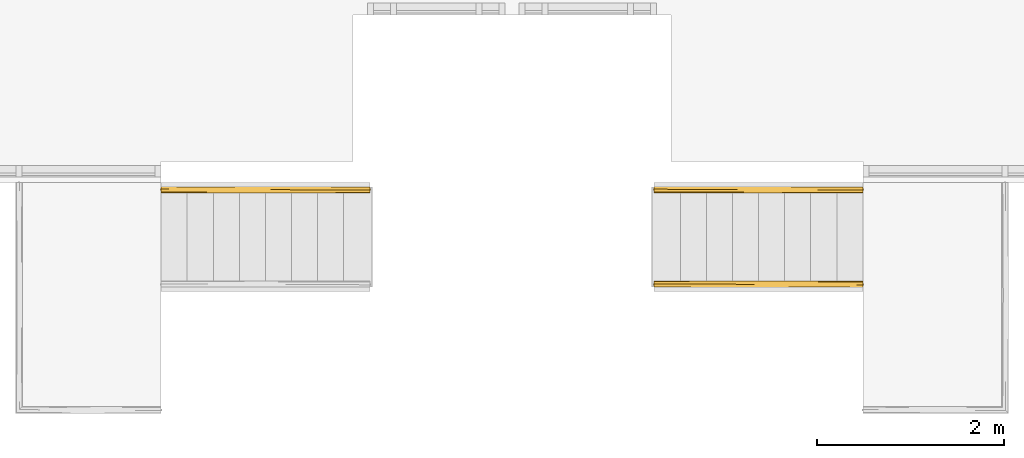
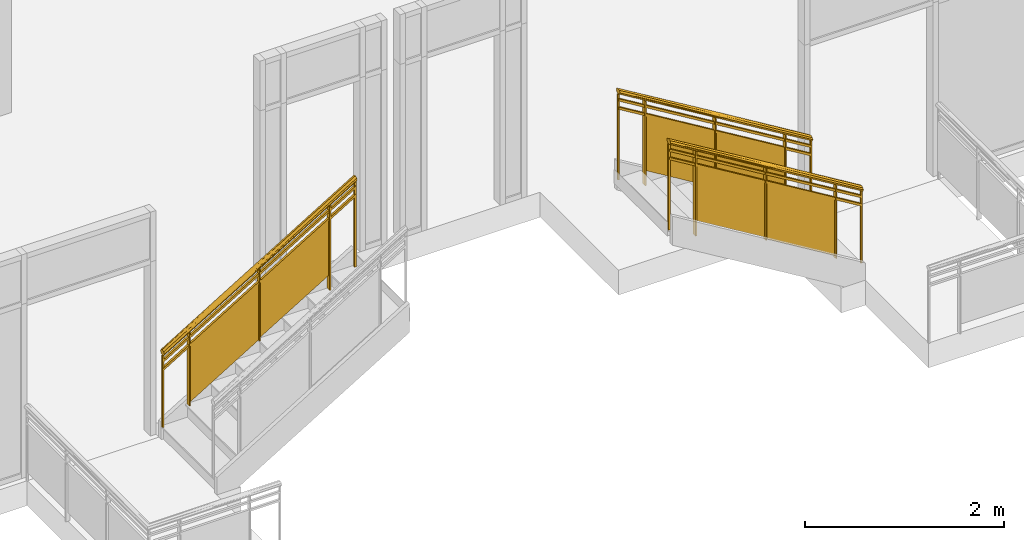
# One storey, part 9 of 11: 3 railings, 1 element without a shape of its own.
"""IFC2X3 building model written with IfcOpenShell, lengths in feet."""

import ifcopenshell
import ifcopenshell.guid

model = None  # the IFC model being written
_history = None  # IfcOwnerHistory: only IFC2X3 demands one
_inside = {}  # id of a spatial element -> (the spatial element, [elements in it])
_under = {}  # id of a project, library or spatial element -> (it, [spatial elements below it])
_declared = {}  # id of a project -> (the project, [libraries it declares])
_typed = {}  # id of a type object -> (the type object, [elements of that type])
_made_of = {}  # id of a material, layer set ... -> (it, [elements and type objects made of it])


def new_model(schema):
    """Start an empty IFC model of exactly this schema.

    Asked for "IFC4X3", IfcOpenShell would pick the latest addendum, in which some entities
    have other attributes; the version numbers below select the first issue.
    IFC2X3 requires an IfcOwnerHistory on every rooted entity: one is made here for all.
    """
    global model, _history
    if schema == "IFC4X3":
        model = ifcopenshell.file(schema_version=(4, 3, 0, 0))
    else:
        model = ifcopenshell.file(schema=schema)
    _inside.clear()
    _under.clear()
    _declared.clear()
    _typed.clear()
    _made_of.clear()
    _history = None
    if model.schema == "IFC2X3":
        org = make("IfcOrganization", Name="unknown")
        user = make(
            "IfcPersonAndOrganization",
            ThePerson=make("IfcPerson", FamilyName="unknown"),
            TheOrganization=org,
        )
        app = make(
            "IfcApplication",
            ApplicationDeveloper=org,
            Version="unknown",
            ApplicationFullName="unknown",
            ApplicationIdentifier="unknown",
        )
        _history = make(
            "IfcOwnerHistory",
            OwningUser=user,
            OwningApplication=app,
            ChangeAction="ADDED",
            CreationDate=0,
        )
    return model


def make(cls, **values):
    """One entity of the class cls with the attributes given. An attribute that is None is left unset."""
    return model.create_entity(
        cls, **{name: value for name, value in values.items() if value is not None}
    )


def entity(cls, *values):
    """Any entity or typed value of the class cls, its attributes in the order of the schema. None: left unset."""
    e = model.create_entity(cls)
    for i, value in enumerate(values):
        if value is not None:
            e[i] = value
    return e


def rooted(cls, **values):
    """An entity with a GlobalId (a new one), such as an element, a storey or a relation."""
    return make(cls, GlobalId=ifcopenshell.guid.new(), OwnerHistory=_history, **values)


def si_unit(unit_type, name, prefix=None):
    """IfcSIUnit, for example si_unit("LENGTHUNIT", "METRE", prefix="MILLI")."""
    return make("IfcSIUnit", UnitType=unit_type, Prefix=prefix, Name=name)


def converted_unit(unit_type, name, factor, base, dimensions=None, offset=None):
    """IfcConversionBasedUnit, such as the inch: factor (a typed value) times the base unit."""
    return make(
        "IfcConversionBasedUnit"
        if offset is None
        else "IfcConversionBasedUnitWithOffset",
        ConversionOffset=offset,
        Dimensions=None
        if dimensions is None
        else entity("IfcDimensionalExponents", *dimensions),
        UnitType=unit_type,
        Name=name,
        ConversionFactor=make(
            "IfcMeasureWithUnit", ValueComponent=factor, UnitComponent=base
        ),
    )


def derived_unit(unit_type, elements):
    """IfcDerivedUnit: a product of units, each with its exponent."""
    return make(
        "IfcDerivedUnit",
        Elements=[
            make("IfcDerivedUnitElement", Unit=unit, Exponent=power)
            for unit, power in elements
        ],
        UnitType=unit_type,
    )


def assignment(units):
    """IfcUnitAssignment: the units of a project."""
    return None if units is None else make("IfcUnitAssignment", Units=units)


def point(xyz):
    """IfcCartesianPoint."""
    return None if xyz is None else make("IfcCartesianPoint", Coordinates=xyz)


def direction(xyz):
    """IfcDirection."""
    return None if xyz is None else make("IfcDirection", DirectionRatios=xyz)


def frame(location, z_axis=None, x_axis=None):
    """IfcAxis2Placement3D, a coordinate frame: its origin and axes. An axis left out is left unset."""
    return make(
        "IfcAxis2Placement3D",
        Location=point(location),
        Axis=direction(z_axis),
        RefDirection=direction(x_axis),
    )


def origin():
    """The frame at (0, 0, 0) with its axes left unset."""
    return frame((0.0, 0.0, 0.0))


def place(relative_to, where):
    """IfcLocalPlacement: puts the frame where relative to a parent placement (None: the world)."""
    return make(
        "IfcLocalPlacement", PlacementRelTo=relative_to, RelativePlacement=where
    )


def context(
    kind, dimensions, precision=None, world=None, true_north=None, identifier=None
):
    """IfcGeometricRepresentationContext, for example the 3D "Model" context."""
    return make(
        "IfcGeometricRepresentationContext",
        ContextIdentifier=identifier,
        ContextType=kind,
        CoordinateSpaceDimension=dimensions,
        Precision=precision,
        WorldCoordinateSystem=world,
        TrueNorth=true_north,
    )


def subcontext(parent, identifier, kind, view, scale=None):
    """IfcGeometricRepresentationSubContext, for example "Body" below "Model"."""
    return make(
        "IfcGeometricRepresentationSubContext",
        ContextIdentifier=identifier,
        ContextType=kind,
        ParentContext=parent,
        TargetScale=scale,
        TargetView=view,
    )


def project(units=None, contexts=None):
    """IfcProject with its units and contexts."""
    return rooted(
        "IfcProject",
        Name="project",
        RepresentationContexts=contexts,
        UnitsInContext=assignment(units),
    )


def spatial(cls, under=None, at=None, **own):
    """A site, building, storey or space (cls), placed at a placement, below another one or the project."""
    s = rooted(cls, ObjectPlacement=at, **own)
    if under is not None:
        _under.setdefault(under.id(), (under, []))[1].append(s)
    return s


def faces_of(points, faces, orient=None, outer=None):
    """IfcFace entities. A face is a list of loops; a loop is a list of indices into points, from 0.

    orient and outer hold one flag for each loop. By default every Orientation is true, the
    first loop of a face is its IfcFaceOuterBound and the others are IfcFaceBound.
    """
    made = []
    for i, loops in enumerate(faces):
        bounds = []
        for j, loop in enumerate(loops):
            is_outer = j == 0 if outer is None else outer[i][j]
            bounds.append(
                make(
                    "IfcFaceOuterBound" if is_outer else "IfcFaceBound",
                    Bound=make("IfcPolyLoop", Polygon=[points[k] for k in loop]),
                    Orientation=True if orient is None else orient[i][j],
                )
            )
        made.append(make("IfcFace", Bounds=bounds))
    return made


def faceted_brep(points, faces, orient=None, outer=None, voids=None):
    """IfcFacetedBrep: a solid bounded by flat faces; with voids (closed shells), ...WithVoids."""
    shared = [point(p) for p in points]
    hull = make("IfcClosedShell", CfsFaces=faces_of(shared, faces, orient, outer))
    if voids is None:
        return make("IfcFacetedBrep", Outer=hull)
    return make(
        "IfcFacetedBrepWithVoids",
        Outer=hull,
        Voids=[
            make(cls, CfsFaces=faces_of(shared, fs, o, b)) for cls, fs, o, b in voids
        ],
    )


def shape(context_of_items, identifier, shape_type, items):
    """IfcShapeRepresentation: the items that make up one representation, for example the "Body"."""
    return make(
        "IfcShapeRepresentation",
        ContextOfItems=context_of_items,
        RepresentationIdentifier=identifier,
        RepresentationType=shape_type,
        Items=items,
    )


def material(Name=None, Category=None):
    """IfcMaterial."""
    return make("IfcMaterial", Name=Name, Category=Category)


def material_list(materials):
    """IfcMaterialList."""
    return make("IfcMaterialList", Materials=materials)


def made_of(thing, what):
    """Note that an element or type object is made of a material, layer set ...; save() writes the relation."""
    if what is not None:
        _made_of.setdefault(what.id(), (what, []))[1].append(thing)
    return thing


def element(
    cls,
    number,
    at=None,
    inside=None,
    cuts=None,
    type_object=None,
    material=None,
    context=None,
    identifier="Body",
    shape_type=None,
    held_by="IfcProductDefinitionShape",
    body=None,
    shapes=None,
    **own,
):
    """One element of the class cls, such as IfcWall. Its Tag is "e" and its number.

    at: its placement. inside: the storey or other place that contains it. cuts: it is an
    opening in that element (IfcRelVoidsElement). A single representation is given by context,
    identifier, shape_type and body (its items); several are given by shapes. held_by: the class
    of the entity that holds the representations. save() writes the other relations.
    """
    e = rooted(cls, Tag="e%d" % number, ObjectPlacement=at, **own)
    if body is not None:
        shapes = [shape(context, identifier, shape_type, body)]
    if shapes is not None:
        e.Representation = make(held_by, Representations=shapes)
    if inside is not None:
        _inside.setdefault(inside.id(), (inside, []))[1].append(e)
    if cuts is not None:
        rooted(
            "IfcRelVoidsElement", RelatingBuildingElement=cuts, RelatedOpeningElement=e
        )
    if type_object is not None:
        _typed.setdefault(type_object.id(), (type_object, []))[1].append(e)
    return made_of(e, material)


def aggregate(whole, parts):
    """IfcRelAggregates: a whole, such as a stair, and the parts it consists of."""
    return rooted("IfcRelAggregates", RelatingObject=whole, RelatedObjects=parts)


def save(model, path):
    """Write the relations noted so far, then the file.

    IfcRelAggregates (storeys below a building ...), IfcRelContainedInSpatialStructure (elements
    in a storey), IfcRelDefinesByType, IfcRelAssociatesMaterial and IfcRelDeclares: one each for
    every whole, place, type object, material and project.
    """
    for whole, parts in _under.values():
        aggregate(whole, parts)
    for where, things in _inside.values():
        rooted(
            "IfcRelContainedInSpatialStructure",
            RelatedElements=things,
            RelatingStructure=where,
        )
    for kind, things in _typed.values():
        rooted("IfcRelDefinesByType", RelatedObjects=things, RelatingType=kind)
    for what, things in _made_of.values():
        rooted("IfcRelAssociatesMaterial", RelatedObjects=things, RelatingMaterial=what)
    for by, libraries in _declared.values():
        rooted("IfcRelDeclares", RelatingContext=by, RelatedDefinitions=libraries)
    model.write(path)


model = new_model("IFC2X3")

# Units and contexts
model_context = context("Model", 3, precision=0.0001, world=origin(), true_north=direction((6.12303176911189e-17, 1.0)))
body_context = subcontext(model_context, "Body", "Model", "MODEL_VIEW")
ifc_project = project(units=[converted_unit("LENGTHUNIT", "FOOT", entity("IfcRatioMeasure", 0.3048), si_unit("LENGTHUNIT", "METRE"), dimensions=[1, 0, 0, 0, 0, 0, 0]), converted_unit("AREAUNIT", "SQUARE FOOT", entity("IfcRatioMeasure", 0.09290304), si_unit("AREAUNIT", "SQUARE_METRE"), dimensions=[2, 0, 0, 0, 0, 0, 0]), converted_unit("VOLUMEUNIT", "CUBIC FOOT", entity("IfcRatioMeasure", 0.028316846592), si_unit("VOLUMEUNIT", "CUBIC_METRE"), dimensions=[3, 0, 0, 0, 0, 0, 0]), converted_unit("PLANEANGLEUNIT", "DEGREE", entity("IfcRatioMeasure", 0.0174532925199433), si_unit("PLANEANGLEUNIT", "RADIAN"), dimensions=[0, 0, 0, 0, 0, 0, 0]), si_unit("MASSUNIT", "GRAM", prefix="KILO"), derived_unit("MASSDENSITYUNIT", [(si_unit("MASSUNIT", "GRAM", prefix="KILO"), 1), (si_unit("LENGTHUNIT", "METRE"), -3)]), si_unit("TIMEUNIT", "SECOND"), si_unit("FREQUENCYUNIT", "HERTZ"), si_unit("THERMODYNAMICTEMPERATUREUNIT", "DEGREE_CELSIUS"), derived_unit("THERMALTRANSMITTANCEUNIT", [(si_unit("MASSUNIT", "GRAM", prefix="KILO"), 1), (si_unit("THERMODYNAMICTEMPERATUREUNIT", "KELVIN"), -1), (si_unit("TIMEUNIT", "SECOND"), -3)]), derived_unit("VOLUMETRICFLOWRATEUNIT", [(si_unit("LENGTHUNIT", "METRE"), 3), (si_unit("TIMEUNIT", "SECOND"), -1)]), si_unit("ELECTRICCURRENTUNIT", "AMPERE"), si_unit("ELECTRICVOLTAGEUNIT", "VOLT"), si_unit("POWERUNIT", "WATT"), si_unit("FORCEUNIT", "NEWTON"), si_unit("ILLUMINANCEUNIT", "LUX"), si_unit("LUMINOUSFLUXUNIT", "LUMEN"), si_unit("LUMINOUSINTENSITYUNIT", "CANDELA"), derived_unit("USERDEFINED", [(si_unit("MASSUNIT", "GRAM", prefix="KILO"), -1), (si_unit("LENGTHUNIT", "METRE"), -2), (si_unit("TIMEUNIT", "SECOND"), 3), (si_unit("LUMINOUSFLUXUNIT", "LUMEN"), 1)]), derived_unit("LINEARVELOCITYUNIT", [(si_unit("LENGTHUNIT", "METRE"), 1), (si_unit("TIMEUNIT", "SECOND"), -1)]), si_unit("PRESSUREUNIT", "PASCAL"), derived_unit("USERDEFINED", [(si_unit("LENGTHUNIT", "METRE"), -2), (si_unit("MASSUNIT", "GRAM", prefix="KILO"), 1), (si_unit("TIMEUNIT", "SECOND"), -2)])], contexts=[model_context])

# Site, building, storey
site_placement = place(None, origin())
site = spatial("IfcSite", under=ifc_project, at=site_placement, Name="Default", CompositionType="ELEMENT")
building_placement = place(site_placement, origin())
building = spatial("IfcBuilding", under=site, at=building_placement, CompositionType="ELEMENT")
storey_placement = place(building_placement, frame((0.0, 0.0, 10.0)))
storey = spatial("IfcBuildingStorey", under=building, at=storey_placement, Name="Level 2", CompositionType="ELEMENT", Elevation=9.99999999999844)

# Stair, railings
stair_placement = place(storey_placement, origin())
stair = element("IfcStair", 1, at=stair_placement, inside=storey, Name="Assembled Stair:Stair", ObjectType="Assembled Stair:7\" max riser 11\" tread", ShapeType="NOTDEFINED")
ifc_material_1 = material(Name="Glass")
ifc_material_2 = material(Name="alum - color")
ifc_material_list_1 = material_list([ifc_material_1, ifc_material_2])
railing_1_placement = place(stair_placement, frame((-46.3459961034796, -7.71720842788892, 0.555555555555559)))
railing_1 = element("IfcRailing", 2, at=railing_1_placement, material=ifc_material_list_1, Name="Railing:Glass Panel - Bottom Fill", ObjectType="Railing:Glass Panel - Bottom Fill", PredefinedType="NOTDEFINED", context=body_context, shape_type="Brep", body=[
    faceted_brep([(6.33333333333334, 0.213567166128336, 6.71557302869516), (6.33333333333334, 0.213567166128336, 3.33333333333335), (6.33333333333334, 0.0469004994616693, 3.33333333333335), (6.33333333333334, 0.0469004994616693, 6.71557302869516), (6.37500000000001, 0.213567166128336, 6.74082555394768), (6.37500000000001, 0.213567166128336, 3.33333333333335), (6.37500000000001, 0.0469004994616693, 6.74082555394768), (6.37500000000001, 0.0469004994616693, 3.33333333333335)], [[[0, 1, 2, 3]], [[4, 5, 1, 0]], [[6, 7, 5, 4]], [[3, 2, 7, 6]], [[3, 6, 4, 0]], [[1, 5, 7, 2]]]),
    faceted_brep([(3.6875, 0.108793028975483, 2.30303030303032), (6.35416666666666, 0.108793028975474, 3.91919191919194), (6.35416666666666, 0.108793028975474, 6.12299550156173), (3.6875, 0.108793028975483, 4.50683388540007), (3.6875, 0.129626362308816, 2.30303030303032), (3.6875, 0.129626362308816, 4.50683388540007), (6.35416666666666, 0.129626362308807, 6.12299550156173), (6.35416666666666, 0.129626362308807, 3.91919191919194)], [[[0, 1, 2, 3]], [[4, 5, 6, 7]], [[3, 5, 4, 0]], [[2, 6, 5, 3]], [[1, 7, 6, 2]], [[0, 4, 7, 1]]]),
    faceted_brep([(3.66666666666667, 0.213567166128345, 5.09941141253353), (3.66666666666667, 0.213567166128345, 2.22222222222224), (3.66666666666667, 0.0469004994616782, 2.22222222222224), (3.66666666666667, 0.0469004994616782, 5.09941141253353), (3.70833333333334, 0.213567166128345, 5.12466393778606), (3.70833333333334, 0.213567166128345, 2.22222222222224), (3.70833333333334, 0.0469004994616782, 5.12466393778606), (3.70833333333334, 0.0469004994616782, 2.22222222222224)], [[[0, 1, 2, 3]], [[4, 5, 1, 0]], [[6, 7, 5, 4]], [[3, 2, 7, 6]], [[3, 6, 4, 0]], [[1, 5, 7, 2]]]),
    faceted_brep([(1.02083333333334, 0.108793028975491, 0.636363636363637), (3.6875, 0.108793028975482, 2.25252525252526), (3.6875, 0.108793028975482, 4.50683388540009), (1.02083333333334, 0.108793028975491, 2.89067226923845), (1.02083333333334, 0.129626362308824, 0.636363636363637), (1.02083333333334, 0.129626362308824, 2.89067226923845), (3.6875, 0.129626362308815, 4.50683388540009), (3.6875, 0.129626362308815, 2.25252525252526)], [[[0, 1, 2, 3]], [[4, 5, 6, 7]], [[3, 5, 4, 0]], [[2, 6, 5, 3]], [[1, 7, 6, 2]], [[0, 4, 7, 1]]]),
    faceted_brep([(1.0, 0.213567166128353, 3.48324979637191), (1.0, 0.213567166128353, 0.555555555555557), (1.0, 0.0469004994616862, 0.555555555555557), (1.0, 0.0469004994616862, 3.48324979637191), (1.04166666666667, 0.213567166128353, 3.50850232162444), (1.04166666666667, 0.213567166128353, 0.555555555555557), (1.04166666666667, 0.0469004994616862, 3.50850232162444), (1.04166666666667, 0.0469004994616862, 0.555555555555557)], [[[0, 1, 2, 3]], [[4, 5, 1, 0]], [[6, 7, 5, 4]], [[3, 2, 7, 6]], [[3, 6, 4, 0]], [[1, 5, 7, 2]]]),
    faceted_brep([(7.31250000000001, 0.161483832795, 7.3090073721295), (7.31250000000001, 0.161483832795, 3.88888888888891), (7.31250000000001, 0.0989838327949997, 3.88888888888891), (7.31250000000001, 0.0989838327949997, 7.3090073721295), (7.37500000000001, 0.161483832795, 7.34688616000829), (7.37500000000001, 0.161483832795, 3.88888888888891), (7.37500000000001, 0.0989838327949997, 7.34688616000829), (7.37500000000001, 0.0989838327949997, 3.88888888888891)], [[[0, 1, 2, 3]], [[4, 5, 1, 0]], [[6, 7, 5, 4]], [[3, 2, 7, 6]], [[3, 6, 4, 0]], [[1, 5, 7, 2]]]),
    faceted_brep([(0.0, 0.161483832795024, 2.8771891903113), (0.0, 0.161483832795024, 0.0), (0.0, 0.0989838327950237, 0.0), (0.0, 0.0989838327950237, 2.8771891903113), (0.0625, 0.161483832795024, 2.91506797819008), (0.0625, 0.161483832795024, 0.0), (0.0625, 0.0989838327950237, 2.91506797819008), (0.0625, 0.0989838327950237, 0.0)], [[[0, 1, 2, 3]], [[4, 5, 1, 0]], [[6, 7, 5, 4]], [[3, 2, 7, 6]], [[3, 6, 4, 0]], [[1, 5, 7, 2]]]),
    faceted_brep([(0.0208333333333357, 0.171900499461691, 2.71538833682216), (0.0208333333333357, 0.171900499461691, 2.61794499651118), (0.0208333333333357, 0.0885671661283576, 2.61794499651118), (0.0208333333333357, 0.0885671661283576, 2.71538833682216), (7.35416666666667, 0.171900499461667, 7.15983278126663), (7.35416666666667, 0.0885671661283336, 7.15983278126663), (7.35416666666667, 0.0885671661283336, 7.06238944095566), (7.35416666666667, 0.171900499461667, 7.06238944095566)], [[[0, 1, 2, 3]], [[4, 5, 6, 7]], [[1, 0, 4, 7]], [[2, 1, 7, 6]], [[3, 2, 6, 5]], [[0, 3, 5, 4]]]),
    faceted_brep([(0.0208333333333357, 0.171900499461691, 2.38205500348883), (0.0208333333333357, 0.171900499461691, 2.28461166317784), (0.0208333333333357, 0.0885671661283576, 2.28461166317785), (0.0208333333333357, 0.0885671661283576, 2.38205500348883), (7.35416666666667, 0.171900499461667, 6.8264994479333), (7.35416666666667, 0.0885671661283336, 6.8264994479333), (7.35416666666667, 0.0885671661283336, 6.72905610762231), (7.35416666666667, 0.171900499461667, 6.72905610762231)], [[[0, 1, 2, 3]], [[4, 5, 6, 7]], [[1, 0, 4, 7]], [[2, 1, 7, 6]], [[3, 2, 6, 5]], [[0, 3, 5, 4]]]),
    faceted_brep([(0.0208333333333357, 0.0465925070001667, 3.08146632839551), (0.0208333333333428, 0.0949461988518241, 3.09524477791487), (0.0208333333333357, 0.143299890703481, 3.10902322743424), (0.0208333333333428, 0.187330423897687, 3.08672922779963), (0.0208333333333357, 0.231360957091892, 3.06443522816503), (0.0208333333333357, 0.243297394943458, 3.03221761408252), (0.0208333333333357, 0.255233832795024, 3.0), (0.0208333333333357, 0.234554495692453, 2.95926683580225), (0.0208333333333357, 0.213875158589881, 2.9185336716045), (0.0208333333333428, 0.165521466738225, 2.90475522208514), (0.0208333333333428, 0.141344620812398, 2.89786599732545), (0.0208333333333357, 0.117167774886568, 2.89097677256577), (0.0208333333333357, 0.0731372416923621, 2.91327077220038), (0.0208333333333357, 0.0291067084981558, 2.93556477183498), (0.0208333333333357, 0.0171702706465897, 2.96778238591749), (0.0208333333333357, 0.00523383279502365, 3.0), (0.0208333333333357, 0.0259131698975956, 3.04073316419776), (7.35416666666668, 0.0259131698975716, 7.40371128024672), (7.35416666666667, 0.0465925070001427, 7.36297811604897), (7.35416666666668, 0.0949461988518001, 7.34919966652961), (7.35416666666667, 0.143299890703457, 7.33542121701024), (7.35416666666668, 0.187330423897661, 7.35771521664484), (7.35416666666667, 0.231360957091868, 7.38000921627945), (7.35416666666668, 0.243297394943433, 7.41222683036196), (7.35416666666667, 0.255233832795, 7.44444444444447), (7.35416666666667, 0.244378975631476, 7.46582582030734), (7.35416666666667, 0.234554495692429, 7.48517760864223), (7.35416666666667, 0.213875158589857, 7.52591077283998), (7.35416666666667, 0.1655214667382, 7.53968922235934), (7.35416666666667, 0.117167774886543, 7.55346767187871), (7.35416666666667, 0.0951525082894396, 7.54232067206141), (7.35416666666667, 0.0731372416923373, 7.53117367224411), (7.35416666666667, 0.0291067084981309, 7.5088796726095), (7.35416666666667, 0.0171702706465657, 7.47666205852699), (7.35416666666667, 0.00523383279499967, 7.44444444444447), (3.7002905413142, 0.24675539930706, 5.19028869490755), (3.87247818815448, 0.177511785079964, 5.23284993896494), (3.91578387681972, 0.2076001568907, 5.27447257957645), (3.0787150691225, 0.231313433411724, 4.78876910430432), (3.15949122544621, 0.255233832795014, 4.90221690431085), (4.21550890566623, 0.25523383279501, 5.54222761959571), (4.04114830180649, 0.0629732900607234, 5.34415364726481), (3.2258587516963, 0.0946029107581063, 4.8373638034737), (3.68929300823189, 0.130201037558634, 5.11368513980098), (3.72718018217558, 0.0367721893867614, 5.17347577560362), (3.44651497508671, 0.0177333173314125, 5.02838773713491), (3.15948484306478, 0.00523383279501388, 4.90221303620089), (3.54783177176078, 0.0115093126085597, 5.17187272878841), (3.33044597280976, 0.0259810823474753, 5.06630868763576), (4.14481111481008, 0.0490518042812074, 5.58273826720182), (3.68590222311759, 0.0794402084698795, 5.32141906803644), (3.19149194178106, 0.251785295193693, 4.94718335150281), (3.54340951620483, 0.127144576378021, 5.24448493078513), (3.42716626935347, 0.161623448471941, 5.17055526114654), (3.59902271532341, 0.221853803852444, 5.24317359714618), (3.37926588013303, 0.241652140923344, 5.0851086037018), (4.26044448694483, 0.193327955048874, 5.66409552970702)], [[[0, 1, 2, 3, 4, 5, 6, 7, 8, 9, 10, 11, 12, 13, 14, 15, 16]], [[17, 18, 19, 20, 21, 22, 23, 24, 25, 26, 27, 28, 29, 30, 31, 32, 33, 34]], [[35, 7, 6]], [[9, 8, 36, 10]], [[22, 37, 38]], [[37, 36, 8]], [[21, 36, 37]], [[35, 6, 39, 40]], [[41, 42, 19]], [[38, 7, 35]], [[19, 42, 43]], [[44, 41, 18]], [[13, 45, 14]], [[8, 38, 37]], [[44, 12, 41]], [[38, 8, 7]], [[11, 43, 42]], [[17, 34, 46]], [[35, 23, 22]], [[11, 10, 43]], [[40, 24, 23]], [[21, 37, 22]], [[36, 21, 20]], [[36, 20, 43]], [[36, 43, 10]], [[43, 20, 19]], [[42, 12, 11]], [[12, 42, 41]], [[13, 12, 44]], [[18, 41, 19]], [[46, 15, 14]], [[44, 18, 17]], [[17, 45, 44]], [[38, 35, 22]], [[45, 17, 46]], [[23, 35, 40]], [[44, 45, 13]], [[14, 45, 46]], [[16, 47, 48]], [[0, 48, 49]], [[49, 31, 50]], [[31, 30, 50]], [[51, 26, 25]], [[2, 52, 53]], [[54, 27, 26]], [[54, 55, 4]], [[26, 51, 55]], [[47, 16, 15]], [[54, 26, 55]], [[5, 4, 55]], [[25, 24, 40, 39]], [[56, 54, 3]], [[56, 3, 53]], [[50, 0, 49]], [[27, 54, 56]], [[51, 39, 6]], [[53, 52, 28]], [[54, 4, 3]], [[56, 28, 27]], [[28, 56, 53]], [[5, 55, 51]], [[29, 28, 52]], [[2, 53, 3]], [[30, 29, 52]], [[52, 2, 1]], [[1, 0, 50]], [[52, 50, 30]], [[1, 50, 52]], [[49, 32, 31]], [[32, 49, 48]], [[33, 48, 47]], [[16, 48, 0]], [[46, 34, 47, 15]], [[33, 32, 48]], [[33, 47, 34]], [[5, 51, 6]], [[39, 51, 25]]]),
])
ifc_material_list_2 = material_list([ifc_material_1, ifc_material_2])
railing_2_placement = place(stair_placement, frame((-29.0126627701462, -11.0505417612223, 0.555555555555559)))
railing_2 = element("IfcRailing", 3, at=railing_2_placement, material=ifc_material_list_2, Name="Railing:Glass Panel - Bottom Fill", ObjectType="Railing:Glass Panel - Bottom Fill", PredefinedType="NOTDEFINED", context=body_context, shape_type="Brep", body=[
    faceted_brep([(6.33333333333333, 0.0469004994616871, 3.50850232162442), (6.33333333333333, 0.213567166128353, 3.50850232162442), (6.33333333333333, 0.213567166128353, 0.555555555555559), (6.33333333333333, 0.0469004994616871, 0.555555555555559), (6.375, 0.0469004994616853, 3.4832497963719), (6.375, 0.0469004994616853, 0.555555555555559), (6.375, 0.213567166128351, 3.4832497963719), (6.375, 0.213567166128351, 0.555555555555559)], [[[0, 1, 2, 3]], [[4, 0, 3, 5]], [[6, 4, 5, 7]], [[1, 6, 7, 2]], [[1, 0, 4, 6]], [[3, 2, 7, 5]]]),
    faceted_brep([(3.6875, 0.151674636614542, 2.25252525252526), (3.6875, 0.151674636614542, 4.50683388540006), (6.35416666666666, 0.151674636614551, 2.89067226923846), (6.35416666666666, 0.151674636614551, 0.63636363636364), (3.6875, 0.130841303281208, 2.25252525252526), (6.35416666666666, 0.130841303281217, 0.63636363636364), (6.35416666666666, 0.130841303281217, 2.89067226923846), (3.6875, 0.130841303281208, 4.50683388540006)], [[[0, 1, 2, 3]], [[4, 5, 6, 7]], [[1, 0, 4, 7]], [[2, 1, 7, 6]], [[3, 2, 6, 5]], [[0, 3, 5, 4]]]),
    faceted_brep([(3.66666666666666, 0.0469004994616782, 5.12466393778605), (3.66666666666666, 0.213567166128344, 5.12466393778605), (3.66666666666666, 0.213567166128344, 2.22222222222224), (3.66666666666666, 0.0469004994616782, 2.22222222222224), (3.70833333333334, 0.0469004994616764, 5.09941141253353), (3.70833333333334, 0.0469004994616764, 2.22222222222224), (3.70833333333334, 0.213567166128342, 5.09941141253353), (3.70833333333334, 0.213567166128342, 2.22222222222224)], [[[0, 1, 2, 3]], [[4, 0, 3, 5]], [[6, 4, 5, 7]], [[1, 6, 7, 2]], [[1, 0, 4, 6]], [[3, 2, 7, 5]]]),
    faceted_brep([(1.02083333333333, 0.151674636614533, 3.91919191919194), (1.02083333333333, 0.151674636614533, 6.12299550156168), (3.6875, 0.151674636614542, 4.50683388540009), (3.6875, 0.151674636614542, 2.30303030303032), (1.02083333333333, 0.130841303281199, 3.91919191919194), (3.6875, 0.130841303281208, 2.30303030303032), (3.6875, 0.130841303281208, 4.50683388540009), (1.02083333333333, 0.130841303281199, 6.12299550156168)], [[[0, 1, 2, 3]], [[4, 5, 6, 7]], [[1, 0, 4, 7]], [[2, 1, 7, 6]], [[3, 2, 6, 5]], [[0, 3, 5, 4]]]),
    faceted_brep([(1.0, 0.0469004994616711, 6.74082555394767), (1.0, 0.213567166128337, 6.74082555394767), (1.0, 0.213567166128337, 3.33333333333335), (1.0, 0.0469004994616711, 3.33333333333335), (1.04166666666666, 0.0469004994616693, 6.71557302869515), (1.04166666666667, 0.0469004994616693, 3.33333333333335), (1.04166666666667, 0.213567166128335, 6.71557302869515), (1.04166666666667, 0.213567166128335, 3.33333333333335)], [[[0, 1, 2, 3]], [[4, 0, 3, 5]], [[6, 4, 5, 7]], [[1, 6, 7, 2]], [[1, 0, 4, 6]], [[3, 2, 7, 5]]]),
    faceted_brep([(7.3125, 0.0989838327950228, 2.91506797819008), (7.3125, 0.161483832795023, 2.91506797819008), (7.3125, 0.161483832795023, 0.0), (7.3125, 0.0989838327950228, 0.0), (7.375, 0.0989838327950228, 2.87718919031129), (7.375, 0.0989838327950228, 0.0), (7.375, 0.161483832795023, 2.87718919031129), (7.375, 0.161483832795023, 0.0)], [[[0, 1, 2, 3]], [[4, 0, 3, 5]], [[6, 4, 5, 7]], [[1, 6, 7, 2]], [[1, 0, 4, 6]], [[3, 2, 7, 5]]]),
    faceted_brep([(0.0, 0.0989838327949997, 7.34688616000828), (0.0, 0.161483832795, 7.34688616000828), (0.0, 0.161483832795, 3.88888888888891), (0.0, 0.0989838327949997, 3.88888888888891), (0.0625, 0.0989838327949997, 7.30900737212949), (0.0625, 0.0989838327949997, 3.88888888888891), (0.0625, 0.161483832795, 7.30900737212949), (0.0625, 0.161483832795, 3.88888888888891)], [[[0, 1, 2, 3]], [[4, 0, 3, 5]], [[6, 4, 5, 7]], [[1, 6, 7, 2]], [[1, 0, 4, 6]], [[3, 2, 7, 5]]]),
    faceted_brep([(0.0208333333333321, 0.0885671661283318, 7.15983278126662), (0.0208333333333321, 0.171900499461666, 7.15983278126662), (0.0208333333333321, 0.171900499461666, 7.06238944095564), (0.0208333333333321, 0.0885671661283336, 7.06238944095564), (7.35416666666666, 0.0885671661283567, 2.71538833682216), (7.35416666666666, 0.0885671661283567, 2.61794499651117), (7.35416666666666, 0.171900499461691, 2.61794499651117), (7.35416666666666, 0.171900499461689, 2.71538833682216)], [[[0, 1, 2, 3]], [[4, 5, 6, 7]], [[1, 0, 4, 7]], [[2, 1, 7, 6]], [[3, 2, 6, 5]], [[0, 3, 5, 4]]]),
    faceted_brep([(0.0208333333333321, 0.0885671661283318, 6.8264994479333), (0.0208333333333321, 0.171900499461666, 6.8264994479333), (0.0208333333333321, 0.171900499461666, 6.72905610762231), (0.0208333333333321, 0.0885671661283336, 6.72905610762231), (7.35416666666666, 0.0885671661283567, 2.38205500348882), (7.35416666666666, 0.0885671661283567, 2.28461166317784), (7.35416666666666, 0.171900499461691, 2.28461166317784), (7.35416666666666, 0.171900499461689, 2.38205500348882)], [[[0, 1, 2, 3]], [[4, 5, 6, 7]], [[1, 0, 4, 7]], [[2, 1, 7, 6]], [[3, 2, 6, 5]], [[0, 3, 5, 4]]]),
    faceted_brep([(7.35416666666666, 0.213875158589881, 3.0814663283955), (7.35416666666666, 0.165521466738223, 3.09524477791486), (7.35416666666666, 0.117167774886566, 3.10902322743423), (7.35416666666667, 0.0731372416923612, 3.08672922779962), (7.35416666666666, 0.0291067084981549, 3.06443522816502), (7.35416666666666, 0.0171702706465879, 3.03221761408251), (7.35416666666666, 0.00523383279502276, 3.0), (7.35416666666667, 0.0259131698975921, 2.95926683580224), (7.35416666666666, 0.0465925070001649, 2.91853367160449), (7.35416666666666, 0.0949461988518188, 2.90475522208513), (7.35416666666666, 0.119123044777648, 2.89786599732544), (7.35416666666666, 0.143299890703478, 2.89097677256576), (7.35416666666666, 0.187330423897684, 2.91327077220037), (7.35416666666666, 0.231360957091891, 2.93556477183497), (7.35416666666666, 0.243297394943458, 2.96778238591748), (7.35416666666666, 0.255233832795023, 3.0), (7.35416666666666, 0.234554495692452, 3.04073316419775), (0.0208333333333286, 0.234554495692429, 7.40371128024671), (0.0208333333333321, 0.213875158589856, 7.36297811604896), (0.0208333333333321, 0.1655214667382, 7.34919966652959), (0.0208333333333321, 0.117167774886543, 7.33542121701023), (0.0208333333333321, 0.0731372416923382, 7.35771521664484), (0.0208333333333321, 0.02910670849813, 7.38000921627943), (0.0208333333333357, 0.0171702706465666, 7.41222683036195), (0.0208333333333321, 0.00523383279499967, 7.44444444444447), (0.0208333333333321, 0.0160886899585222, 7.46582582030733), (0.0208333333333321, 0.0259131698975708, 7.48517760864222), (0.0208333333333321, 0.0465925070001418, 7.52591077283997), (0.0208333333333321, 0.094946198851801, 7.53968922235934), (0.0208333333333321, 0.143299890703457, 7.55346767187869), (0.0208333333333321, 0.165315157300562, 7.5423206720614), (0.0208333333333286, 0.187330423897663, 7.5311736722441), (0.0208333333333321, 0.231360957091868, 7.50887967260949), (0.0208333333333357, 0.243297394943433, 7.47666205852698), (0.0208333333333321, 0.255233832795, 7.44444444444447), (3.67470945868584, 0.0137122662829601, 5.19028869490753), (3.50252181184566, 0.0829558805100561, 5.23284993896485), (3.45921612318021, 0.0528675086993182, 5.27447257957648), (4.2962849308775, 0.0291542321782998, 4.78876910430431), (4.2155293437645, 0.00523383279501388, 4.90220443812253), (3.15949109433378, 0.00523383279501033, 5.5422276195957), (3.33385169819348, 0.197494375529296, 5.34415364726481), (4.14914124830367, 0.165864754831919, 4.83736380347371), (3.68570699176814, 0.130266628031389, 5.11368513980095), (3.64781981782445, 0.223695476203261, 5.1734757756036), (3.92848502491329, 0.242734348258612, 5.0283877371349), (4.21550106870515, 0.255233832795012, 4.90222157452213), (3.82716822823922, 0.248958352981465, 5.1718727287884), (4.04455402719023, 0.23448658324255, 5.06630868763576), (3.2301888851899, 0.211415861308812, 5.58273826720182), (3.68909777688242, 0.181027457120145, 5.32141906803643), (4.18350805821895, 0.00868237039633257, 4.9471833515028), (3.83159048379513, 0.133323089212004, 5.24448493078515), (3.94783373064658, 0.098844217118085, 5.1705552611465), (3.77597728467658, 0.0386138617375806, 5.24317359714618), (3.99573411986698, 0.0188155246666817, 5.08510860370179), (3.11455551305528, 0.0671397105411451, 5.66409552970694)], [[[0, 1, 2, 3, 4, 5, 6, 7, 8, 9, 10, 11, 12, 13, 14, 15, 16]], [[17, 18, 19, 20, 21, 22, 23, 24, 25, 26, 27, 28, 29, 30, 31, 32, 33, 34]], [[35, 7, 6]], [[9, 8, 36, 10]], [[22, 37, 38]], [[37, 36, 8]], [[21, 36, 37]], [[35, 6, 39, 40]], [[41, 42, 19]], [[38, 7, 35]], [[19, 42, 43]], [[44, 41, 18]], [[13, 45, 14]], [[8, 38, 37]], [[44, 12, 41]], [[38, 8, 7]], [[11, 43, 42]], [[17, 34, 46]], [[35, 23, 22]], [[11, 10, 43]], [[40, 24, 23]], [[21, 37, 22]], [[36, 21, 20]], [[36, 20, 43]], [[36, 43, 10]], [[43, 20, 19]], [[42, 12, 11]], [[12, 42, 41]], [[13, 12, 44]], [[18, 41, 19]], [[46, 15, 14]], [[44, 18, 17]], [[17, 45, 44]], [[38, 35, 22]], [[45, 17, 46]], [[23, 35, 40]], [[44, 45, 13]], [[14, 45, 46]], [[16, 47, 48]], [[0, 48, 49]], [[49, 31, 50]], [[31, 30, 50]], [[51, 26, 25]], [[2, 52, 53]], [[54, 27, 26]], [[54, 55, 4]], [[26, 51, 55]], [[47, 16, 15]], [[54, 26, 55]], [[5, 4, 55]], [[25, 24, 40, 39]], [[56, 54, 3]], [[56, 3, 53]], [[50, 0, 49]], [[27, 54, 56]], [[51, 39, 6]], [[53, 52, 28]], [[54, 4, 3]], [[56, 28, 27]], [[28, 56, 53]], [[5, 55, 51]], [[29, 28, 52]], [[2, 53, 3]], [[30, 29, 52]], [[52, 2, 1]], [[1, 0, 50]], [[52, 50, 30]], [[1, 50, 52]], [[49, 32, 31]], [[32, 49, 48]], [[33, 48, 47]], [[16, 48, 0]], [[46, 34, 47, 15]], [[33, 32, 48]], [[33, 47, 34]], [[5, 51, 6]], [[39, 51, 25]]]),
])
ifc_material_list_3 = material_list([ifc_material_1, ifc_material_2])
railing_3_placement = place(stair_placement, frame((-29.0126627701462, -7.71720842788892, 0.555555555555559)))
railing_3 = element("IfcRailing", 4, at=railing_3_placement, material=ifc_material_list_3, Name="Railing:Glass Panel - Bottom Fill", ObjectType="Railing:Glass Panel - Bottom Fill", PredefinedType="NOTDEFINED", context=body_context, shape_type="Brep", body=[
    faceted_brep([(6.33333333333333, 0.213567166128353, 3.50850232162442), (6.33333333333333, 0.213567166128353, 0.555555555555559), (6.33333333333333, 0.0469004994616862, 0.555555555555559), (6.33333333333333, 0.0469004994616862, 3.50850232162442), (6.375, 0.213567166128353, 3.4832497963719), (6.375, 0.213567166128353, 0.555555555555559), (6.375, 0.0469004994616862, 3.4832497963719), (6.375, 0.0469004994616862, 0.555555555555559)], [[[0, 1, 2, 3]], [[4, 5, 1, 0]], [[6, 7, 5, 4]], [[3, 2, 7, 6]], [[3, 6, 4, 0]], [[1, 5, 7, 2]]]),
    faceted_brep([(3.6875, 0.108793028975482, 2.25252525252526), (6.35416666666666, 0.108793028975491, 0.63636363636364), (6.35416666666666, 0.108793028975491, 2.89067226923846), (3.6875, 0.108793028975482, 4.50683388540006), (3.6875, 0.129626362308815, 2.25252525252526), (3.6875, 0.129626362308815, 4.50683388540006), (6.35416666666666, 0.129626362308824, 2.89067226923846), (6.35416666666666, 0.129626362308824, 0.63636363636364)], [[[0, 1, 2, 3]], [[4, 5, 6, 7]], [[3, 5, 4, 0]], [[2, 6, 5, 3]], [[1, 7, 6, 2]], [[0, 4, 7, 1]]]),
    faceted_brep([(3.66666666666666, 0.213567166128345, 5.12466393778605), (3.66666666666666, 0.213567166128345, 2.22222222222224), (3.66666666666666, 0.0469004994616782, 2.22222222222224), (3.66666666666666, 0.0469004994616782, 5.12466393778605), (3.70833333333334, 0.213567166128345, 5.09941141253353), (3.70833333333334, 0.213567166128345, 2.22222222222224), (3.70833333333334, 0.0469004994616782, 5.09941141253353), (3.70833333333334, 0.0469004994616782, 2.22222222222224)], [[[0, 1, 2, 3]], [[4, 5, 1, 0]], [[6, 7, 5, 4]], [[3, 2, 7, 6]], [[3, 6, 4, 0]], [[1, 5, 7, 2]]]),
    faceted_brep([(1.02083333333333, 0.108793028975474, 3.91919191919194), (3.6875, 0.108793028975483, 2.30303030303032), (3.6875, 0.108793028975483, 4.50683388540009), (1.02083333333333, 0.108793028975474, 6.12299550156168), (1.02083333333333, 0.129626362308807, 3.91919191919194), (1.02083333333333, 0.129626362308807, 6.12299550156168), (3.6875, 0.129626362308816, 4.50683388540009), (3.6875, 0.129626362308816, 2.30303030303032)], [[[0, 1, 2, 3]], [[4, 5, 6, 7]], [[3, 5, 4, 0]], [[2, 6, 5, 3]], [[1, 7, 6, 2]], [[0, 4, 7, 1]]]),
    faceted_brep([(1.0, 0.213567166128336, 6.74082555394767), (1.0, 0.213567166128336, 3.33333333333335), (1.0, 0.0469004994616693, 3.33333333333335), (1.0, 0.0469004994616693, 6.74082555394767), (1.04166666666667, 0.213567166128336, 6.71557302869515), (1.04166666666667, 0.213567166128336, 3.33333333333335), (1.04166666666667, 0.0469004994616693, 6.71557302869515), (1.04166666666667, 0.0469004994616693, 3.33333333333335)], [[[0, 1, 2, 3]], [[4, 5, 1, 0]], [[6, 7, 5, 4]], [[3, 2, 7, 6]], [[3, 6, 4, 0]], [[1, 5, 7, 2]]]),
    faceted_brep([(7.3125, 0.161483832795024, 2.91506797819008), (7.3125, 0.161483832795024, 0.0), (7.3125, 0.0989838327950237, 0.0), (7.3125, 0.0989838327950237, 2.91506797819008), (7.375, 0.161483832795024, 2.87718919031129), (7.375, 0.161483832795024, 0.0), (7.375, 0.0989838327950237, 2.87718919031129), (7.375, 0.0989838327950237, 0.0)], [[[0, 1, 2, 3]], [[4, 5, 1, 0]], [[6, 7, 5, 4]], [[3, 2, 7, 6]], [[3, 6, 4, 0]], [[1, 5, 7, 2]]]),
    faceted_brep([(0.0, 0.161483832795, 7.34688616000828), (0.0, 0.161483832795, 3.88888888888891), (0.0, 0.0989838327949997, 3.88888888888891), (0.0, 0.0989838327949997, 7.34688616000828), (0.0625, 0.161483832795, 7.30900737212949), (0.0625, 0.161483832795, 3.88888888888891), (0.0625, 0.0989838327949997, 7.30900737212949), (0.0625, 0.0989838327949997, 3.88888888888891)], [[[0, 1, 2, 3]], [[4, 5, 1, 0]], [[6, 7, 5, 4]], [[3, 2, 7, 6]], [[3, 6, 4, 0]], [[1, 5, 7, 2]]]),
    faceted_brep([(0.0208333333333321, 0.171900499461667, 7.15983278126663), (0.0208333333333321, 0.171900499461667, 7.06238944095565), (0.0208333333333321, 0.0885671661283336, 7.06238944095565), (0.0208333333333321, 0.0885671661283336, 7.15983278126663), (7.35416666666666, 0.171900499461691, 2.71538833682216), (7.35416666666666, 0.0885671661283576, 2.71538833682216), (7.35416666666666, 0.0885671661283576, 2.61794499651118), (7.35416666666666, 0.171900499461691, 2.61794499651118)], [[[0, 1, 2, 3]], [[4, 5, 6, 7]], [[1, 0, 4, 7]], [[2, 1, 7, 6]], [[3, 2, 6, 5]], [[0, 3, 5, 4]]]),
    faceted_brep([(0.0208333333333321, 0.171900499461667, 6.8264994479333), (0.0208333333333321, 0.171900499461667, 6.72905610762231), (0.0208333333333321, 0.0885671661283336, 6.72905610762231), (0.0208333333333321, 0.0885671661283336, 6.8264994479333), (7.35416666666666, 0.171900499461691, 2.38205500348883), (7.35416666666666, 0.0885671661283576, 2.38205500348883), (7.35416666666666, 0.0885671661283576, 2.28461166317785), (7.35416666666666, 0.171900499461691, 2.28461166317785)], [[[0, 1, 2, 3]], [[4, 5, 6, 7]], [[1, 0, 4, 7]], [[2, 1, 7, 6]], [[3, 2, 6, 5]], [[0, 3, 5, 4]]]),
    faceted_brep([(7.35416666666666, 0.213875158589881, 3.08146632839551), (7.35416666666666, 0.165521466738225, 3.09524477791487), (7.35416666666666, 0.117167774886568, 3.10902322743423), (7.35416666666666, 0.0731372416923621, 3.08672922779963), (7.35416666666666, 0.0291067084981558, 3.06443522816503), (7.35416666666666, 0.0171702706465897, 3.03221761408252), (7.35416666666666, 0.00523383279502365, 3.0), (7.35416666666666, 0.0259131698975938, 2.95926683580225), (7.35416666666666, 0.0465925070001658, 2.91853367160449), (7.35416666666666, 0.0949461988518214, 2.90475522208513), (7.35416666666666, 0.11912304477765, 2.89786599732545), (7.35416666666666, 0.14329989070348, 2.89097677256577), (7.35416666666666, 0.187330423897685, 2.91327077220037), (7.35416666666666, 0.231360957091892, 2.93556477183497), (7.35416666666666, 0.243297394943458, 2.96778238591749), (7.35416666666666, 0.255233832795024, 3.0), (7.35416666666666, 0.234554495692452, 3.04073316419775), (0.0208333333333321, 0.234554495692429, 7.40371128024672), (0.0208333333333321, 0.213875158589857, 7.36297811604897), (0.0208333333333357, 0.1655214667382, 7.3491996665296), (0.0208333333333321, 0.117167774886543, 7.33542121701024), (0.0208333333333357, 0.0731372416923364, 7.35771521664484), (0.0208333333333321, 0.0291067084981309, 7.38000921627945), (0.0208333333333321, 0.0171702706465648, 7.41222683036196), (0.0208333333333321, 0.00523383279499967, 7.44444444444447), (0.0208333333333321, 0.016088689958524, 7.46582582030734), (0.0208333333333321, 0.0259131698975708, 7.48517760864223), (0.0208333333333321, 0.0465925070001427, 7.52591077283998), (0.0208333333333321, 0.0949461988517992, 7.53968922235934), (0.0208333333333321, 0.143299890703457, 7.5534676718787), (0.0208333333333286, 0.16531515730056, 7.5423206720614), (0.0208333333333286, 0.187330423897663, 7.5311736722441), (0.0208333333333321, 0.231360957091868, 7.5088796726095), (0.0208333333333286, 0.243297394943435, 7.47666205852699), (0.0208333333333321, 0.255233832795, 7.44444444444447), (3.67470945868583, 0.0137122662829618, 5.19028869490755), (3.50252181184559, 0.0829558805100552, 5.23284993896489), (3.45921612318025, 0.05286750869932, 5.27447257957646), (4.2962849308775, 0.0291542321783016, 4.78876910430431), (4.21551930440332, 0.00523383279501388, 4.90221052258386), (3.15949109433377, 0.00523383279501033, 5.54222761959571), (3.33385169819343, 0.197494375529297, 5.34415364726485), (4.14914124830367, 0.165864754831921, 4.83736380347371), (3.68570699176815, 0.130266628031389, 5.11368513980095), (3.64781981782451, 0.223695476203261, 5.17347577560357), (3.92848502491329, 0.242734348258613, 5.02838773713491), (4.2154905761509, 0.255233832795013, 4.90222793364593), (3.8271682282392, 0.248958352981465, 5.17187272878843), (4.04455402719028, 0.234486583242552, 5.06630868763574), (3.23018888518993, 0.211415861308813, 5.58273826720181), (3.68909777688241, 0.181027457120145, 5.32141906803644), (4.18350805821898, 0.00868237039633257, 4.94718335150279), (3.83159048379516, 0.133323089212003, 5.24448493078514), (3.94783373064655, 0.098844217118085, 5.17055526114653), (3.77597728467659, 0.0386138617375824, 5.24317359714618), (3.99573411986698, 0.0188155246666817, 5.08510860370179), (3.11455551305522, 0.067139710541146, 5.66409552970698)], [[[0, 1, 2, 3, 4, 5, 6, 7, 8, 9, 10, 11, 12, 13, 14, 15, 16]], [[17, 18, 19, 20, 21, 22, 23, 24, 25, 26, 27, 28, 29, 30, 31, 32, 33, 34]], [[35, 7, 6]], [[9, 8, 36, 10]], [[22, 37, 38]], [[37, 36, 8]], [[21, 36, 37]], [[35, 6, 39, 40]], [[41, 42, 19]], [[38, 7, 35]], [[19, 42, 43]], [[44, 41, 18]], [[13, 45, 14]], [[8, 38, 37]], [[44, 12, 41]], [[38, 8, 7]], [[11, 43, 42]], [[17, 34, 46]], [[35, 23, 22]], [[11, 10, 43]], [[40, 24, 23]], [[21, 37, 22]], [[36, 21, 20]], [[36, 20, 43]], [[36, 43, 10]], [[43, 20, 19]], [[42, 12, 11]], [[12, 42, 41]], [[13, 12, 44]], [[18, 41, 19]], [[46, 15, 14]], [[44, 18, 17]], [[17, 45, 44]], [[38, 35, 22]], [[45, 17, 46]], [[23, 35, 40]], [[44, 45, 13]], [[14, 45, 46]], [[16, 47, 48]], [[0, 48, 49]], [[49, 31, 50]], [[31, 30, 50]], [[51, 26, 25]], [[2, 52, 53]], [[54, 27, 26]], [[54, 55, 4]], [[26, 51, 55]], [[47, 16, 15]], [[54, 26, 55]], [[5, 4, 55]], [[25, 24, 40, 39]], [[56, 54, 3]], [[56, 3, 53]], [[50, 0, 49]], [[27, 54, 56]], [[51, 39, 6]], [[53, 52, 28]], [[54, 4, 3]], [[56, 28, 27]], [[28, 56, 53]], [[5, 55, 51]], [[29, 28, 52]], [[2, 53, 3]], [[30, 29, 52]], [[52, 2, 1]], [[1, 0, 50]], [[52, 50, 30]], [[1, 50, 52]], [[49, 32, 31]], [[32, 49, 48]], [[33, 48, 47]], [[16, 48, 0]], [[46, 34, 47, 15]], [[33, 32, 48]], [[33, 47, 34]], [[5, 51, 6]], [[39, 51, 25]]]),
])
aggregate(stair, [railing_1, railing_2, railing_3])

save(model, "model.ifc")
